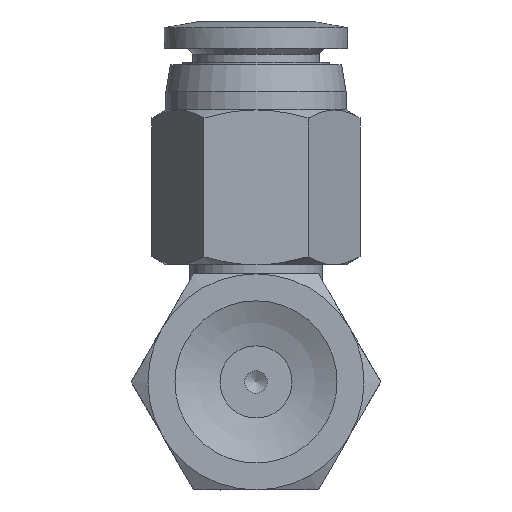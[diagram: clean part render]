
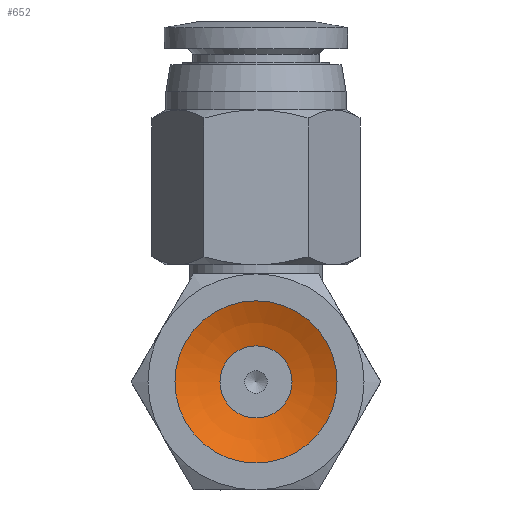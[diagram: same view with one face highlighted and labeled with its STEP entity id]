
A CAD part, front view. The second image highlights one B-rep face of the part: STEP entity #652.
In plain terms, the highlighted spherical face has radius 10.203 mm.
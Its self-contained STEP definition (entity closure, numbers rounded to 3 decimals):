
#652=ADVANCED_FACE('',(#1047,#1048),#1049,.F.);
#1047=FACE_OUTER_BOUND('',#1529,.T.);
#1048=FACE_OUTER_BOUND('',#1530,.T.);
#1049=SPHERICAL_SURFACE('',#1531,10.203);
#1529=EDGE_LOOP('',(#2815));
#1530=EDGE_LOOP('',(#2816));
#1531=AXIS2_PLACEMENT_3D('',#2817,#2818,#2819);
#2815=ORIENTED_EDGE('',*,*,#3419,.T.);
#2816=ORIENTED_EDGE('',*,*,#3408,.F.);
#2817=CARTESIAN_POINT('',(0.,-9.157,0.));
#2818=DIRECTION('',(0.0,-1.0,0.));
#2819=DIRECTION('',(1.0,0.0,0.0));
#3408=EDGE_CURVE('',#3923,#3923,#3924,.T.);
#3419=EDGE_CURVE('',#3945,#3945,#3946,.T.);
#3923=VERTEX_POINT('',#5127);
#3924=CIRCLE('',#5128,2.);
#3945=VERTEX_POINT('',#5149);
#3946=CIRCLE('',#5150,4.5);
#5127=CARTESIAN_POINT('',(0.0,0.848,-2.));
#5128=AXIS2_PLACEMENT_3D('',#5969,#5970,#5971);
#5149=CARTESIAN_POINT('',(0.0,0.,-4.5));
#5150=AXIS2_PLACEMENT_3D('',#6002,#6003,#6004);
#5969=CARTESIAN_POINT('',(0.0,0.848,0.0));
#5970=DIRECTION('',(0.0,-1.0,0.));
#5971=DIRECTION('',(0.0,0.,-1.0));
#6002=CARTESIAN_POINT('',(0.0,0.,0.0));
#6003=DIRECTION('',(0.0,-1.0,0.));
#6004=DIRECTION('',(0.0,0.,-1.0));
